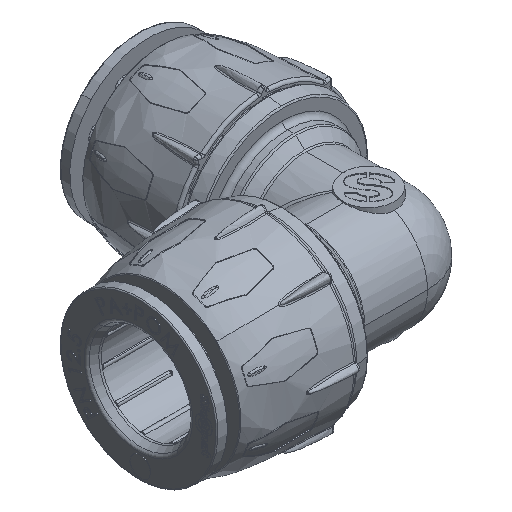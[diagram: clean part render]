
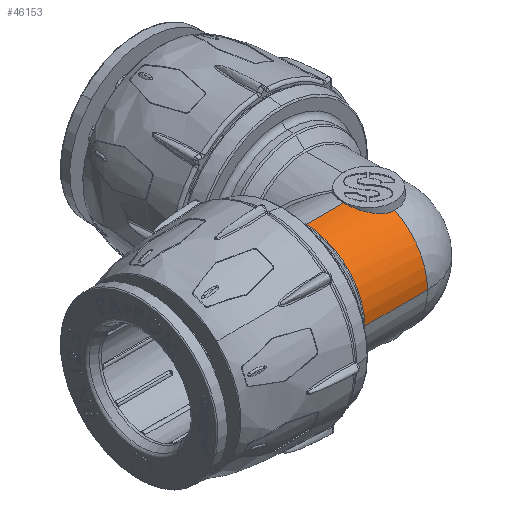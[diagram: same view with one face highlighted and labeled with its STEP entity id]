
A CAD part, isometric view. The second image highlights one B-rep face of the part: STEP entity #46153.
In plain terms, the highlighted cylindrical face has radius 11.55 mm (diameter 23.1 mm), a partial arc.
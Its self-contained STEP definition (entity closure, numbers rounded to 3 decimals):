
#1033 = CARTESIAN_POINT ( 'NONE',  ( 15.668, -4.949, 10.436 ) ) ;
#1488 = CARTESIAN_POINT ( 'NONE',  ( 17.004, -5.122, 10.352 ) ) ;
#1933 = CARTESIAN_POINT ( 'NONE',  ( 13.215, -3.371, 11.05 ) ) ;
#4323 = CIRCLE ( 'NONE', #79668, 11.55 ) ;
#5552 = CARTESIAN_POINT ( 'NONE',  ( 12.052, -0.839, 11.521 ) ) ;
#7118 = VERTEX_POINT ( 'NONE', #43673 ) ;
#7291 = CARTESIAN_POINT ( 'NONE',  ( 12.649, -2.561, 11.266 ) ) ;
#7730 = CARTESIAN_POINT ( 'NONE',  ( 16.329, -5.087, 10.37 ) ) ;
#7886 = ORIENTED_EDGE ( 'NONE', *, *, #20984, .T. ) ;
#8619 = CARTESIAN_POINT ( 'NONE',  ( 15.352, -4.848, 10.484 ) ) ;
#10036 = FACE_OUTER_BOUND ( 'NONE', #52524, .T. ) ;
#11162 = EDGE_CURVE ( 'NONE', #7118, #45266, #56093, .T. ) ;
#12742 = DIRECTION ( 'NONE',  ( 1., 0., 0. ) ) ;
#14779 = EDGE_CURVE ( 'NONE', #45266, #81780, #58819, .T. ) ;
#16773 = LINE ( 'NONE', #22558, #78000 ) ;
#17618 = LINE ( 'NONE', #71980, #34833 ) ;
#18666 = AXIS2_PLACEMENT_3D ( 'NONE', #78643, #24272, #23376 ) ;
#18719 = CARTESIAN_POINT ( 'NONE',  ( 4.661, 0., 0. ) ) ;
#19756 = CARTESIAN_POINT ( 'NONE',  ( 12.244, -1.652, 11.436 ) ) ;
#20984 = EDGE_CURVE ( 'NONE', #7118, #33241, #17618, .T. ) ;
#22558 = CARTESIAN_POINT ( 'NONE',  ( 14.504, -11.55, 0. ) ) ;
#23376 = DIRECTION ( 'NONE',  ( 0., 0., 1. ) ) ;
#24272 = DIRECTION ( 'NONE',  ( -1., 0., 0. ) ) ;
#25298 = CARTESIAN_POINT ( 'NONE',  ( 4.661, 0., 11.55 ) ) ;
#26128 = DIRECTION ( 'NONE',  ( 0., 0., -1. ) ) ;
#26963 = CARTESIAN_POINT ( 'NONE',  ( 17.004, 0., 0. ) ) ;
#31866 = ORIENTED_EDGE ( 'NONE', *, *, #14779, .F. ) ;
#31901 = DIRECTION ( 'NONE',  ( 0., 0., -1. ) ) ;
#33130 = CARTESIAN_POINT ( 'NONE',  ( 12.148, -1.33, 11.478 ) ) ;
#33241 = VERTEX_POINT ( 'NONE', #25298 ) ;
#34833 = VECTOR ( 'NONE', #38120, 1000. ) ;
#38120 = DIRECTION ( 'NONE',  ( -1., 0., 0. ) ) ;
#39386 = CARTESIAN_POINT ( 'NONE',  ( 12.028, -0.674, 11.532 ) ) ;
#40141 = CARTESIAN_POINT ( 'NONE',  ( 17.004, -5.122, 10.352 ) ) ;
#43673 = CARTESIAN_POINT ( 'NONE',  ( 11.987, 0., 11.55 ) ) ;
#43954 = DIRECTION ( 'NONE',  ( 1., 0., 0. ) ) ;
#45266 = VERTEX_POINT ( 'NONE', #40141 ) ;
#46153 = ADVANCED_FACE ( 'NONE', ( #10036 ), #83551, .T. ) ;
#47813 = CARTESIAN_POINT ( 'NONE',  ( 14.465, -4.419, 10.671 ) ) ;
#48256 = CARTESIAN_POINT ( 'NONE',  ( 14.324, -4.331, 10.708 ) ) ;
#49144 = CARTESIAN_POINT ( 'NONE',  ( 13.67, -3.839, 10.896 ) ) ;
#51751 = CARTESIAN_POINT ( 'NONE',  ( 17.004, -11.55, 0. ) ) ;
#52524 = EDGE_LOOP ( 'NONE', ( #56022, #7886, #87670, #54792, #31866 ) ) ;
#53617 = CARTESIAN_POINT ( 'NONE',  ( 11.987, -0.168, 11.55 ) ) ;
#54504 = CARTESIAN_POINT ( 'NONE',  ( 16.665, -5.122, 10.352 ) ) ;
#54792 = ORIENTED_EDGE ( 'NONE', *, *, #77271, .T. ) ;
#56022 = ORIENTED_EDGE ( 'NONE', *, *, #11162, .F. ) ;
#56093 = B_SPLINE_CURVE_WITH_KNOTS ( 'NONE', 3,
 ( #67885, #53617, #60331, #39386, #5552, #33130, #19756, #79493, #7291, #61655, #1933, #49144, #62984, #48256, #47813, #74986, #83442, #8619, #1033, #7730, #54504, #1488 ),
 .UNSPECIFIED., .F., .F.,
 ( 4, 2, 2, 2, 2, 2, 2, 2, 2, 2, 4 ),
 ( 0.008, 0.009, 0.009, 0.01, 0.011, 0.012, 0.013, 0.014, 0.014, 0.015, 0.016 ),
 .UNSPECIFIED. ) ;
#57236 = EDGE_CURVE ( 'NONE', #33241, #81050, #4323, .T. ) ;
#58819 = CIRCLE ( 'NONE', #64495, 11.55 ) ;
#60331 = CARTESIAN_POINT ( 'NONE',  ( 11.995, -0.339, 11.546 ) ) ;
#61036 = DIRECTION ( 'NONE',  ( 1., 0., 0. ) ) ;
#61655 = CARTESIAN_POINT ( 'NONE',  ( 13.007, -3.111, 11.127 ) ) ;
#61843 = CARTESIAN_POINT ( 'NONE',  ( 4.661, -11.55, 0. ) ) ;
#62984 = CARTESIAN_POINT ( 'NONE',  ( 13.918, -4.05, 10.818 ) ) ;
#64495 = AXIS2_PLACEMENT_3D ( 'NONE', #26963, #12742, #31901 ) ;
#67885 = CARTESIAN_POINT ( 'NONE',  ( 11.987, 0., 11.55 ) ) ;
#71980 = CARTESIAN_POINT ( 'NONE',  ( 14.504, 0., 11.55 ) ) ;
#74986 = CARTESIAN_POINT ( 'NONE',  ( 14.753, -4.579, 10.604 ) ) ;
#77271 = EDGE_CURVE ( 'NONE', #81050, #81780, #16773, .T. ) ;
#78000 = VECTOR ( 'NONE', #43954, 1000. ) ;
#78643 = CARTESIAN_POINT ( 'NONE',  ( 14.504, 0., 0. ) ) ;
#79493 = CARTESIAN_POINT ( 'NONE',  ( 12.496, -2.27, 11.329 ) ) ;
#79668 = AXIS2_PLACEMENT_3D ( 'NONE', #18719, #61036, #26128 ) ;
#81050 = VERTEX_POINT ( 'NONE', #61843 ) ;
#81780 = VERTEX_POINT ( 'NONE', #51751 ) ;
#83442 = CARTESIAN_POINT ( 'NONE',  ( 14.9, -4.652, 10.572 ) ) ;
#83551 = CYLINDRICAL_SURFACE ( 'NONE', #18666, 11.55 ) ;
#87670 = ORIENTED_EDGE ( 'NONE', *, *, #57236, .T. ) ;
